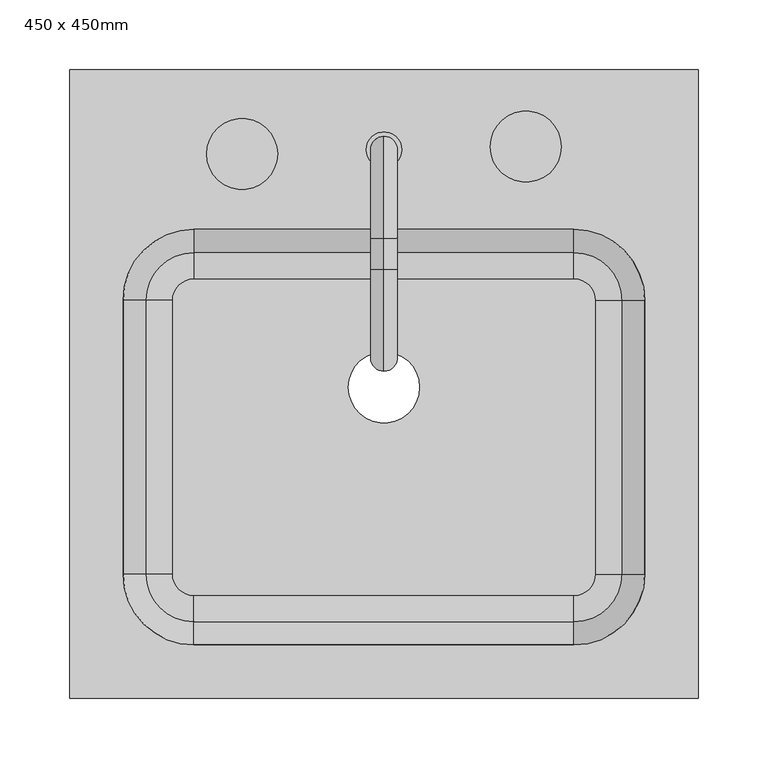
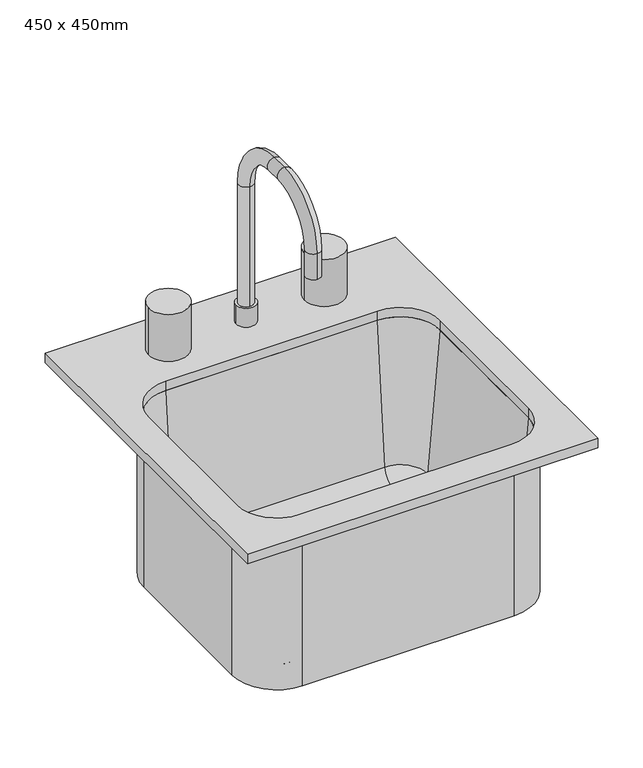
"""IFC4 building model written with IfcOpenShell, lengths in millimetres: flow terminal geometry, シンク キッチン - アイランド : 450 x 450mm."""

from ifc_helpers import new_model, si_unit, point, frame, frame_2d, origin, place, context, project, spatial, polyline, circle_curve, ellipse_curve, trimmed, segment, composite_curve, outline, extrude, source, transform, mapped, element, save
from ifc_brep_helpers import plane_surface, cylinder_surface, revolved_surface, advanced_brep


def flow_terminal_450_x_450mm_65598b4f(model_context):
    return source(origin(), model_context, "Body", "SolidModel", [
        advanced_brep(
        [(208.9392406, 62.2454011, 684.1), (151.7892406, 119.3954011, 684.1), (151.7892406, 119.3954011, 900.0), (208.9392406, 62.2454011, 900.0), (208.9392406, -133.7545989, 684.1), (151.7892406, -190.9045989, 684.1), (-120.4107594, -190.9045989, 684.1), (-177.5607594, -133.7545989, 684.1), (-177.5607594, 62.2454011, 684.1), (-120.4107594, 119.3954011, 684.1), (-9.7107594, 0.0, 684.1), (41.0892406, 0.0, 684.1), (167.0776588, 62.2454011, 693.625), (151.7892406, 77.5338193, 693.625), (-120.4107594, 77.5338193, 693.625), (-135.6991776, 62.2454011, 693.625), (-135.6991776, -133.7545989, 693.625), (-120.4107594, -149.0430171, 693.625), (151.7892406, -149.0430171, 693.625), (167.0776588, -133.7545989, 693.625), (-9.7107594, 0.0, 693.625), (41.0892406, 0.0, 693.625), (186.0551678, 62.2454011, 711.0146831), (151.7892406, 96.5113283, 711.0146831), (202.5892406, 62.2454011, 900.0), (151.7892406, 113.0454011, 900.0), (208.9392406, -133.7545989, 900.0), (186.0551678, -133.7545989, 711.0146831), (202.5892406, -133.7545989, 900.0), (151.7892406, -190.9045989, 900.0), (151.7892406, -168.0205261, 711.0146831), (151.7892406, -184.5545989, 900.0), (-120.4107594, -190.9045989, 900.0), (-120.4107594, -168.0205261, 711.0146831), (-120.4107594, -184.5545989, 900.0), (-177.5607594, -133.7545989, 900.0), (-154.6766866, -133.7545989, 711.0146831), (-171.2107594, -133.7545989, 900.0), (-177.5607594, 62.2454011, 900.0), (-154.6766866, 62.2454011, 711.0146831), (-171.2107594, 62.2454011, 900.0), (-120.4107594, 119.3954011, 900.0), (-120.4107594, 96.5113283, 711.0146831), (-120.4107594, 113.0454011, 900.0)],
        [
            (0, 1, circle_curve(frame((151.7892406, 62.2454011, 684.1), z_axis=(0.0, 0.0, 1.0), x_axis=(0.0, 1.0, 0.0)), 57.15)),
            (1, 2),
            (2, 3, circle_curve(frame((151.7892406, 62.2454011, 900.0), z_axis=(0.0, 0.0, -1.0), x_axis=(0.0, 1.0, 0.0)), 57.15)),
            (3, 0),
            (0, 4),
            (4, 5, circle_curve(frame((151.7892406, -133.7545989, 684.1), z_axis=(0.0, 0.0, -1.0), x_axis=(1.0, 0.0, 0.0)), 57.15)),
            (5, 6),
            (6, 7, circle_curve(frame((-120.4107594, -133.7545989, 684.1), z_axis=(0.0, 0.0, -1.0), x_axis=(0.0, -1.0, 0.0)), 57.15)),
            (7, 8),
            (8, 9, circle_curve(frame((-120.4107594, 62.2454011, 684.1), z_axis=(0.0, 0.0, -1.0), x_axis=(-1.0, 0.0, 0.0)), 57.15)),
            (9, 1),
            (10, 11, circle_curve(frame((15.6892406, 0.0, 684.1), z_axis=(0.0, 0.0, 1.0), x_axis=(1.0, 0.0, 0.0)), 25.4)),
            (11, 10, circle_curve(frame((15.6892406, 0.0, 684.1), z_axis=(0.0, 0.0, 1.0), x_axis=(1.0, 0.0, 0.0)), 25.4)),
            (12, 13, circle_curve(frame((151.7892406, 62.2454011, 693.625), z_axis=(0.0, 0.0, 1.0), x_axis=(0.0, 1.0, 0.0)), 15.2884182)),
            (13, 14),
            (14, 15, circle_curve(frame((-120.4107594, 62.2454011, 693.625), z_axis=(0.0, 0.0, 1.0), x_axis=(-1.0, 0.0, 0.0)), 15.2884182)),
            (15, 16),
            (16, 17, circle_curve(frame((-120.4107594, -133.7545989, 693.625), z_axis=(0.0, 0.0, 1.0), x_axis=(0.0, -1.0, 0.0)), 15.2884182)),
            (17, 18),
            (18, 19, circle_curve(frame((151.7892406, -133.7545989, 693.625), z_axis=(0.0, 0.0, 1.0), x_axis=(1.0, 0.0, 0.0)), 15.2884182)),
            (19, 12),
            (20, 21, circle_curve(frame((15.6892406, 0.0, 693.625), z_axis=(0.0, 0.0, -1.0), x_axis=(1.0, 0.0, 0.0)), 25.4)),
            (21, 20, circle_curve(frame((15.6892406, 0.0, 693.625), z_axis=(0.0, 0.0, -1.0), x_axis=(1.0, 0.0, 0.0)), 25.4)),
            (12, 22, circle_curve(frame((167.0776588, 62.2454011, 712.675), z_axis=(0.0, -1.0, 0.0), x_axis=(1.0, 0.0, 0.0)), 19.05)),
            (22, 23, circle_curve(frame((151.7892406, 62.2454011, 711.0146831), z_axis=(0.0, 0.0, 1.0), x_axis=(0.0, 1.0, 0.0)), 34.2659272)),
            (23, 13, circle_curve(frame((151.7892406, 77.5338193, 712.675), z_axis=(-1.0, 0.0, 0.0), x_axis=(0.0, 1.0, 0.0)), 19.05)),
            (22, 24),
            (24, 25, circle_curve(frame((151.7892406, 62.2454011, 900.0), z_axis=(0.0, 0.0, 1.0), x_axis=(0.0, 1.0, 0.0)), 50.8)),
            (25, 23),
            (2, 25),
            (24, 3),
            (3, 26),
            (26, 4),
            (19, 27, circle_curve(frame((167.0776588, -133.7545989, 712.675), z_axis=(0.0, -1.0, 0.0), x_axis=(1.0, 0.0, 0.0)), 19.05)),
            (27, 22),
            (27, 28),
            (28, 24),
            (28, 26),
            (26, 29, circle_curve(frame((151.7892406, -133.7545989, 900.0), z_axis=(0.0, 0.0, -1.0), x_axis=(1.0, 0.0, 0.0)), 57.15)),
            (29, 5),
            (18, 30, circle_curve(frame((151.7892406, -149.0430171, 712.675), z_axis=(-1.0, 0.0, 0.0), x_axis=(0.0, -1.0, 0.0)), 19.05)),
            (30, 27, circle_curve(frame((151.7892406, -133.7545989, 711.0146831), z_axis=(0.0, 0.0, 1.0), x_axis=(1.0, 0.0, 0.0)), 34.2659272)),
            (30, 31),
            (31, 28, circle_curve(frame((151.7892406, -133.7545989, 900.0), z_axis=(0.0, 0.0, 1.0), x_axis=(1.0, 0.0, 0.0)), 50.8)),
            (31, 29),
            (29, 32),
            (32, 6),
            (17, 33, circle_curve(frame((-120.4107594, -149.0430171, 712.675), z_axis=(-1.0, 0.0, 0.0), x_axis=(0.0, -1.0, 0.0)), 19.05)),
            (33, 30),
            (33, 34),
            (34, 31),
            (34, 32),
            (32, 35, circle_curve(frame((-120.4107594, -133.7545989, 900.0), z_axis=(0.0, 0.0, -1.0), x_axis=(0.0, -1.0, 0.0)), 57.15)),
            (35, 7),
            (16, 36, circle_curve(frame((-135.6991776, -133.7545989, 712.675), z_axis=(0.0, 1.0, 0.0), x_axis=(-1.0, 0.0, 0.0)), 19.05)),
            (36, 33, circle_curve(frame((-120.4107594, -133.7545989, 711.0146831), z_axis=(0.0, 0.0, 1.0), x_axis=(0.0, -1.0, 0.0)), 34.2659272)),
            (36, 37),
            (37, 34, circle_curve(frame((-120.4107594, -133.7545989, 900.0), z_axis=(0.0, 0.0, 1.0), x_axis=(0.0, -1.0, 0.0)), 50.8)),
            (37, 35),
            (35, 38),
            (38, 8),
            (15, 39, circle_curve(frame((-135.6991776, 62.2454011, 712.675), z_axis=(0.0, 1.0, 0.0), x_axis=(-1.0, 0.0, 0.0)), 19.05)),
            (39, 36),
            (39, 40),
            (40, 37),
            (40, 38),
            (38, 41, circle_curve(frame((-120.4107594, 62.2454011, 900.0), z_axis=(0.0, 0.0, -1.0), x_axis=(-1.0, 0.0, 0.0)), 57.15)),
            (41, 9),
            (14, 42, circle_curve(frame((-120.4107594, 77.5338193, 712.675), z_axis=(1.0, 0.0, 0.0), x_axis=(0.0, 1.0, 0.0)), 19.05)),
            (42, 39, circle_curve(frame((-120.4107594, 62.2454011, 711.0146831), z_axis=(0.0, 0.0, 1.0), x_axis=(-1.0, 0.0, 0.0)), 34.2659272)),
            (42, 43),
            (43, 40, circle_curve(frame((-120.4107594, 62.2454011, 900.0), z_axis=(0.0, 0.0, 1.0), x_axis=(-1.0, 0.0, 0.0)), 50.8)),
            (43, 41),
            (41, 2),
            (23, 42),
            (25, 43),
            (20, 10),
            (11, 21),
        ],
        [
            cylinder_surface(frame((151.7892406, 62.2454011, 0.0), z_axis=(0.0, 0.0, -1.0), x_axis=(0.0, 1.0, 0.0)), 57.15),
            plane_surface(frame((151.7892406, 62.2454011, 684.1), z_axis=(0.0, 0.0, -1.0), x_axis=(0.0, 1.0, 0.0))),
            plane_surface(frame((151.7892406, 62.2454011, 693.625), z_axis=(0.0, 0.0, 1.0), x_axis=(0.0, 1.0, 0.0))),
            revolved_surface(trimmed(ellipse_curve(frame((151.7892406, 77.5338193, 712.675), z_axis=(1.0, 0.0, 0.0), x_axis=(0.0, 1.0, 0.0)), 19.05, 19.05), [point((151.7892406, 77.5338193, 693.625))], [point((151.7892406, 96.5113283, 711.0146831))], True, "CARTESIAN"), (151.7892406, 62.2454011, 0.0), (0.0, 0.0, -1.0)),
            revolved_surface(polyline([(151.7892406, 96.5113283, 711.0146831), (151.7892406, 113.0454011, 900.0)]), (151.7892406, 62.2454011, 0.0), (0.0, 0.0, -1.0)),
            plane_surface(frame((151.7892406, 62.2454011, 900.0), z_axis=(0.0, 0.0, 1.0), x_axis=(0.0, 1.0, 0.0))),
            plane_surface(frame((208.9392406, 62.2454011, 900.0), z_axis=(1.0, 0.0, 0.0), x_axis=(0.0, -1.0, 0.0))),
            revolved_surface(polyline([(186.1276588, -133.7545989, 712.675), (186.1276588, 62.2454011, 712.675)]), (167.0776588, 62.2454011, 712.675), (0.0, -1.0, 0.0)),
            plane_surface(frame((186.0551678, 62.2454011, 711.0146831), z_axis=(-0.9961946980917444, 0.0, 0.0871557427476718), x_axis=(0.0, -1.0, 0.0))),
            plane_surface(frame((202.5892406, 62.2454011, 900.0), z_axis=(0.0, 0.0, 1.0), x_axis=(0.0, -1.0, 0.0))),
            cylinder_surface(frame((151.7892406, -133.7545989, 0.0), z_axis=(0.0, 0.0, -1.0), x_axis=(1.0, 0.0, 0.0)), 57.15),
            revolved_surface(trimmed(ellipse_curve(frame((167.0776588, -133.7545989, 712.675), z_axis=(0.0, -1.0, 0.0), x_axis=(1.0, 0.0, 0.0)), 19.05, 19.05), [point((167.0776588, -133.7545989, 693.625))], [point((186.0551678, -133.7545989, 711.0146831))], True, "CARTESIAN"), (151.7892406, -133.7545989, 0.0), (0.0, 0.0, -1.0)),
            revolved_surface(polyline([(186.0551678, -133.7545989, 711.0146831), (202.5892406, -133.7545989, 900.0)]), (151.7892406, -133.7545989, 0.0), (0.0, 0.0, -1.0)),
            plane_surface(frame((151.7892406, -133.7545989, 900.0), z_axis=(0.0, 0.0, 1.0), x_axis=(1.0, 0.0, 0.0))),
            plane_surface(frame((151.7892406, -190.9045989, 900.0), z_axis=(0.0, -1.0, 0.0), x_axis=(-1.0, 0.0, 0.0))),
            revolved_surface(polyline([(-120.41075939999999, -168.0930171, 712.675), (151.7892406, -168.0930171, 712.675)]), (151.7892406, -149.0430171, 712.675), (-1.0, 0.0, 0.0)),
            plane_surface(frame((151.7892406, -168.0205261, 711.0146831), z_axis=(0.0, 0.9961946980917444, 0.0871557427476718), x_axis=(-1.0, 0.0, 0.0))),
            plane_surface(frame((151.7892406, -184.5545989, 900.0), z_axis=(0.0, 0.0, 1.0), x_axis=(-1.0, 0.0, 0.0))),
            cylinder_surface(frame((-120.4107594, -133.7545989, 0.0), z_axis=(0.0, 0.0, -1.0), x_axis=(0.0, -1.0, 0.0)), 57.15),
            revolved_surface(trimmed(ellipse_curve(frame((-120.4107594, -149.0430171, 712.675), z_axis=(-1.0, 0.0, 0.0), x_axis=(0.0, -1.0, 0.0)), 19.05, 19.05), [point((-120.4107594, -149.0430171, 693.625))], [point((-120.4107594, -168.0205261, 711.0146831))], True, "CARTESIAN"), (-120.4107594, -133.7545989, 0.0), (0.0, 0.0, -1.0)),
            revolved_surface(polyline([(-120.4107594, -168.0205261, 711.0146831), (-120.4107594, -184.5545989, 900.0)]), (-120.4107594, -133.7545989, 0.0), (0.0, 0.0, -1.0)),
            plane_surface(frame((-120.4107594, -133.7545989, 900.0), z_axis=(0.0, 0.0, 1.0), x_axis=(0.0, -1.0, 0.0))),
            plane_surface(frame((-177.5607594, -133.7545989, 900.0), z_axis=(-1.0, 0.0, 0.0), x_axis=(0.0, 1.0, 0.0))),
            revolved_surface(polyline([(-154.74917760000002, 62.24540110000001, 712.675), (-154.74917760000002, -133.7545989, 712.675)]), (-135.6991776, -133.7545989, 712.675), (0.0, 1.0, 0.0)),
            plane_surface(frame((-154.6766866, -133.7545989, 711.0146831), z_axis=(0.9961946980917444, 0.0, 0.0871557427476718), x_axis=(0.0, 1.0, 0.0))),
            plane_surface(frame((-171.2107594, -133.7545989, 900.0), z_axis=(0.0, 0.0, 1.0), x_axis=(0.0, 1.0, 0.0))),
            cylinder_surface(frame((-120.4107594, 62.2454011, 0.0), z_axis=(0.0, 0.0, -1.0), x_axis=(-1.0, 0.0, 0.0)), 57.15),
            revolved_surface(trimmed(ellipse_curve(frame((-135.6991776, 62.2454011, 712.675), z_axis=(0.0, 1.0, 0.0), x_axis=(-1.0, 0.0, 0.0)), 19.05, 19.05), [point((-135.6991776, 62.2454011, 693.625))], [point((-154.6766866, 62.2454011, 711.0146831))], True, "CARTESIAN"), (-120.4107594, 62.2454011, 0.0), (0.0, 0.0, -1.0)),
            revolved_surface(polyline([(-154.6766866, 62.2454011, 711.0146831), (-171.2107594, 62.2454011, 900.0)]), (-120.4107594, 62.2454011, 0.0), (0.0, 0.0, -1.0)),
            plane_surface(frame((-120.4107594, 62.2454011, 900.0), z_axis=(0.0, 0.0, 1.0), x_axis=(-1.0, 0.0, 0.0))),
            plane_surface(frame((-120.4107594, 119.3954011, 900.0), z_axis=(0.0, 1.0, 0.0), x_axis=(1.0, 0.0, 0.0))),
            revolved_surface(polyline([(151.78924059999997, 96.5838193, 712.675), (-120.4107594, 96.5838193, 712.675)]), (-120.4107594, 77.5338193, 712.675), (1.0, 0.0, 0.0)),
            plane_surface(frame((-120.4107594, 96.5113283, 711.0146831), z_axis=(0.0, -0.9961946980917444, 0.0871557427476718), x_axis=(1.0, 0.0, 0.0))),
            plane_surface(frame((-120.4107594, 113.0454011, 900.0), z_axis=(0.0, 0.0, 1.0), x_axis=(1.0, 0.0, 0.0))),
            revolved_surface(polyline([(41.0892406, 0.0, 684.1), (41.0892406, 0.0, 693.625)]), (15.6892406, 0.0, 0.0), (0.0, 0.0, -1.0)),
        ],
        [
            (0, [[1, 2, 3, 4]]),
            (1, [[-1, 5, 6, 7, 8, 9, 10, 11], [12, 13]]),
            (2, [[14, 15, 16, 17, 18, 19, 20, 21], [22, 23]]),
            (3, [[-14, 24, 25, 26]]),
            (4, [[-25, 27, 28, 29]]),
            (5, [[-3, 30, -28, 31]]),
            (6, [[-4, 32, 33, -5]]),
            (7, [[-24, -21, 34, 35]]),
            (8, [[-27, -35, 36, 37]]),
            (9, [[-31, -37, 38, -32]]),
            (10, [[-33, 39, 40, -6]]),
            (11, [[-34, -20, 41, 42]]),
            (12, [[-36, -42, 43, 44]]),
            (13, [[-38, -44, 45, -39]]),
            (14, [[-40, 46, 47, -7]]),
            (15, [[-41, -19, 48, 49]]),
            (16, [[-43, -49, 50, 51]]),
            (17, [[-45, -51, 52, -46]]),
            (18, [[-47, 53, 54, -8]]),
            (19, [[-48, -18, 55, 56]]),
            (20, [[-50, -56, 57, 58]]),
            (21, [[-52, -58, 59, -53]]),
            (22, [[-54, 60, 61, -9]]),
            (23, [[-55, -17, 62, 63]]),
            (24, [[-57, -63, 64, 65]]),
            (25, [[-59, -65, 66, -60]]),
            (26, [[-61, 67, 68, -10]]),
            (27, [[-62, -16, 69, 70]]),
            (28, [[-64, -70, 71, 72]]),
            (29, [[-66, -72, 73, -67]]),
            (30, [[-2, -11, -68, 74]]),
            (31, [[-26, 75, -69, -15]]),
            (32, [[-29, 76, -71, -75]]),
            (33, [[-30, -74, -73, -76]]),
            (34, [[-22, 77, -13, 78]]),
            (34, [[-23, -78, -12, -77]]),
        ],
    ),
        advanced_brep(
        [(2.9892406, 170.1954011, 912.7), (28.3892406, 170.1954011, 912.7), (15.6892406, 179.7204011, 1100.025), (15.6892406, 160.6704011, 1100.025), (15.6892406, 160.6704011, 938.1), (15.6892406, 179.7204011, 938.1), (15.6892406, 106.6954011, 1173.05), (15.6892406, 106.6954011, 1154.0), (15.6892406, 84.4704011, 1173.05), (15.6892406, 84.4704011, 1154.0), (15.6892406, 11.4454011, 1100.025), (15.6892406, 30.4954011, 1100.025), (15.6892406, 11.4454011, 1065.1), (15.6892406, 30.4954011, 1065.1), (2.9892406, 170.1954011, 938.1), (28.3892406, 170.1954011, 938.1)],
        [
            (0, 1, circle_curve(frame((15.6892406, 170.1954011, 912.7), z_axis=(0.0, 0.0, -1.0), x_axis=(1.0, 0.0, 0.0)), 12.7)),
            (1, 0, circle_curve(frame((15.6892406, 170.1954011, 912.7), z_axis=(0.0, 0.0, -1.0), x_axis=(1.0, 0.0, 0.0)), 12.7)),
            (2, 3, circle_curve(frame((15.6892406, 170.1954011, 1100.025), z_axis=(0.0, 0.0, -1.0), x_axis=(0.0, -1.0, 0.0)), 9.525)),
            (3, 4),
            (4, 5, circle_curve(frame((15.6892406, 170.1954011, 938.1), z_axis=(0.0, 0.0, 1.0), x_axis=(0.0, -1.0, 0.0)), 9.525)),
            (5, 2),
            (3, 2, circle_curve(frame((15.6892406, 170.1954011, 1100.025), z_axis=(0.0, 0.0, -1.0), x_axis=(0.0, -1.0, 0.0)), 9.525)),
            (5, 4, circle_curve(frame((15.6892406, 170.1954011, 938.1), z_axis=(0.0, 0.0, 1.0), x_axis=(0.0, -1.0, 0.0)), 9.525)),
            (2, 6, circle_curve(frame((15.6892406, 106.6954011, 1100.025), z_axis=(1.0, 0.0, 0.0), x_axis=(0.0, 1.0, 0.0)), 73.025)),
            (6, 7, circle_curve(frame((15.6892406, 106.6954011, 1163.525), z_axis=(0.0, 1.0, 0.0), x_axis=(0.0, 0.0, -1.0)), 9.525)),
            (7, 3, circle_curve(frame((15.6892406, 106.6954011, 1100.025), z_axis=(-1.0, 0.0, 0.0), x_axis=(0.0, 1.0, 0.0)), 53.975)),
            (7, 6, circle_curve(frame((15.6892406, 106.6954011, 1163.525), z_axis=(0.0, 1.0, 0.0), x_axis=(0.0, 0.0, -1.0)), 9.525)),
            (6, 8),
            (8, 9, circle_curve(frame((15.6892406, 84.4704011, 1163.525), z_axis=(0.0, 1.0, 0.0), x_axis=(0.0, 0.0, -1.0)), 9.525)),
            (9, 7),
            (9, 8, circle_curve(frame((15.6892406, 84.4704011, 1163.525), z_axis=(0.0, 1.0, 0.0), x_axis=(0.0, 0.0, -1.0)), 9.525)),
            (8, 10, circle_curve(frame((15.6892406, 84.4704011, 1100.025), z_axis=(1.0, 0.0, 0.0), x_axis=(0.0, 0.0, 1.0)), 73.025)),
            (10, 11, circle_curve(frame((15.6892406, 20.9704011, 1100.025), z_axis=(0.0, 0.0, 1.0), x_axis=(0.0, 1.0, 0.0)), 9.525)),
            (11, 9, circle_curve(frame((15.6892406, 84.4704011, 1100.025), z_axis=(-1.0, 0.0, 0.0), x_axis=(0.0, 0.0, 1.0)), 53.975)),
            (11, 10, circle_curve(frame((15.6892406, 20.9704011, 1100.025), z_axis=(0.0, 0.0, 1.0), x_axis=(0.0, 1.0, 0.0)), 9.525)),
            (12, 13, circle_curve(frame((15.6892406, 20.9704011, 1065.1), z_axis=(0.0, 0.0, -1.0), x_axis=(0.0, 1.0, 0.0)), 9.525)),
            (13, 12, circle_curve(frame((15.6892406, 20.9704011, 1065.1), z_axis=(0.0, 0.0, -1.0), x_axis=(0.0, 1.0, 0.0)), 9.525)),
            (10, 12),
            (13, 11),
            (14, 15, circle_curve(frame((15.6892406, 170.1954011, 938.1), z_axis=(0.0, 0.0, 1.0), x_axis=(1.0, 0.0, 0.0)), 12.7)),
            (15, 14, circle_curve(frame((15.6892406, 170.1954011, 938.1), z_axis=(0.0, 0.0, 1.0), x_axis=(1.0, 0.0, 0.0)), 12.7)),
            (14, 0),
            (1, 15),
        ],
        [
            plane_surface(frame((15.6892406, 160.6704011, 912.7), z_axis=(0.0, 0.0, -1.0), x_axis=(1.0, 0.0, 0.0))),
            cylinder_surface(frame((15.6892406, 170.1954011, 912.7), z_axis=(0.0, 0.0, -1.0), x_axis=(0.0, -1.0, 0.0)), 9.525),
            revolved_surface(trimmed(ellipse_curve(frame((15.6892406, 170.1954011, 1100.025), z_axis=(0.0, 0.0, -1.0), x_axis=(0.0, -1.0, 0.0)), 9.525, 9.525), [point((15.6892406, 179.7204011, 1100.025))], [point((15.6892406, 160.6704011, 1100.025))], True, "CARTESIAN"), (15.6892406, 106.6954011, 1100.025), (1.0, 0.0, 0.0)),
            revolved_surface(trimmed(ellipse_curve(frame((15.6892406, 170.1954011, 1100.025), z_axis=(0.0, 0.0, -1.0), x_axis=(0.0, -1.0, 0.0)), 9.525, 9.525), [point((15.6892406, 160.6704011, 1100.025))], [point((15.6892406, 179.7204011, 1100.025))], True, "CARTESIAN"), (15.6892406, 106.6954011, 1100.025), (1.0, 0.0, 0.0)),
            cylinder_surface(frame((15.6892406, 106.6954011, 1163.525), z_axis=(0.0, 1.0, 0.0), x_axis=(0.0, 0.0, -1.0)), 9.525),
            revolved_surface(trimmed(ellipse_curve(frame((15.6892406, 84.4704011, 1163.525), z_axis=(0.0, 1.0, 0.0), x_axis=(0.0, 0.0, -1.0)), 9.525, 9.525), [point((15.6892406, 84.4704011, 1173.05))], [point((15.6892406, 84.4704011, 1154.0))], True, "CARTESIAN"), (15.6892406, 84.4704011, 1100.025), (1.0, 0.0, 0.0)),
            revolved_surface(trimmed(ellipse_curve(frame((15.6892406, 84.4704011, 1163.525), z_axis=(0.0, 1.0, 0.0), x_axis=(0.0, 0.0, -1.0)), 9.525, 9.525), [point((15.6892406, 84.4704011, 1154.0))], [point((15.6892406, 84.4704011, 1173.05))], True, "CARTESIAN"), (15.6892406, 84.4704011, 1100.025), (1.0, 0.0, 0.0)),
            plane_surface(frame((15.6892406, 11.4454011, 1065.1), z_axis=(0.0, 0.0, -1.0), x_axis=(-1.0, 0.0, 0.0))),
            cylinder_surface(frame((15.6892406, 20.9704011, 1100.025), z_axis=(0.0, 0.0, 1.0), x_axis=(0.0, 1.0, 0.0)), 9.525),
            plane_surface(frame((28.3892406, 170.1954011, 938.1), z_axis=(0.0, 0.0, 1.0), x_axis=(0.0, 1.0, 0.0))),
            cylinder_surface(frame((15.6892406, 170.1954011, 912.7), z_axis=(0.0, 0.0, 1.0), x_axis=(1.0, 0.0, 0.0)), 12.7),
        ],
        [
            (0, [[1, 2]]),
            (1, [[3, 4, 5, 6]]),
            (1, [[7, -6, 8, -4]]),
            (2, [[-3, 9, 10, 11]]),
            (3, [[-7, -11, 12, -9]]),
            (4, [[-10, 13, 14, 15]]),
            (4, [[-12, -15, 16, -13]]),
            (5, [[-14, 17, 18, 19]]),
            (6, [[-16, -19, 20, -17]]),
            (7, [[21, 22]]),
            (8, [[-18, 23, -22, 24]]),
            (8, [[-20, -24, -21, -23]]),
            (9, [[25, 26], [-5, -8]]),
            (10, [[-25, 27, -2, 28]]),
            (10, [[-26, -28, -1, -27]]),
        ],
    ),
        extrude(outline(composite_curve([segment(trimmed(circle_curve(frame_2d((-85.9107594, 167.1166076)), 25.4), [point((-111.3107594, 167.1166076))], [point((-60.5107594, 167.1166076))], False, "CARTESIAN"), True, "CONTINUOUS"), segment(trimmed(circle_curve(frame_2d((-85.9107594, 167.1166076)), 25.4), [point((-60.5107594, 167.1166076))], [point((-111.3107594, 167.1166076))], False, "CARTESIAN"), True, "CONTINUOUS")], self_intersect=False)), frame((0.0, 0.0, 912.7), z_axis=(0.0, 0.0, 1.0), x_axis=(1.0, 0.0, 0.0)), (0.0, 0.0, 1.0), 63.5),
        extrude(outline(composite_curve([segment(trimmed(circle_curve(frame_2d((117.2892406, 172.3133323)), 25.4), [point((91.8892406, 172.3133323))], [point((142.6892406, 172.3133323))], False, "CARTESIAN"), True, "CONTINUOUS"), segment(trimmed(circle_curve(frame_2d((117.2892406, 172.3133323)), 25.4), [point((142.6892406, 172.3133323))], [point((91.8892406, 172.3133323))], False, "CARTESIAN"), True, "CONTINUOUS")], self_intersect=False)), frame((0.0, 0.0, 912.7), z_axis=(0.0, 0.0, 1.0), x_axis=(1.0, 0.0, 0.0)), (0.0, 0.0, 1.0), 63.5),
        extrude(outline(polyline([(240.6892406, 227.3454011), (240.6892406, -222.6545989), (-209.3107594, -222.6545989), (-209.3107594, 227.3454011), (240.6892406, 227.3454011)]), holes=[composite_curve([segment(polyline([(151.7892406, 113.0454011), (-120.4107594, 113.0454011)]), True, "CONTINUOUS"), segment(trimmed(circle_curve(frame_2d((-120.4107594, 62.2454011)), 50.8), [point((-120.4107594, 113.0454011))], [point((-171.2107594, 62.2454011))], True, "CARTESIAN"), True, "CONTINUOUS"), segment(polyline([(-171.2107594, 62.2454011), (-171.2107594, -133.7545989)]), True, "CONTINUOUS"), segment(trimmed(circle_curve(frame_2d((-120.4107594, -133.7545989)), 50.8), [point((-171.2107594, -133.7545989))], [point((-120.4107594, -184.5545989))], True, "CARTESIAN"), True, "CONTINUOUS"), segment(polyline([(-120.4107594, -184.5545989), (151.7892406, -184.5545989)]), True, "CONTINUOUS"), segment(trimmed(circle_curve(frame_2d((151.7892406, -133.7545989)), 50.8), [point((151.7892406, -184.5545989))], [point((202.5892406, -133.7545989))], True, "CARTESIAN"), True, "CONTINUOUS"), segment(polyline([(202.5892406, -133.7545989), (202.5892406, 62.2454011)]), True, "CONTINUOUS"), segment(trimmed(circle_curve(frame_2d((151.7892406, 62.2454011)), 50.8), [point((202.5892406, 62.2454011))], [point((151.7892406, 113.0454011))], True, "CARTESIAN"), True, "CONTINUOUS")], self_intersect=False)]), frame((0.0, 0.0, 900.0), z_axis=(0.0, 0.0, 1.0), x_axis=(1.0, 0.0, 0.0)), (0.0, 0.0, 1.0), 12.7),
    ])


if __name__ == "__main__":
    model = new_model("IFC4")
    model_context = context("Model", 3, world=origin())
    ifc_project = project(units=[si_unit("LENGTHUNIT", "METRE", prefix="MILLI")], contexts=[model_context])
    site = spatial("IfcSite", under=ifc_project)
    building = spatial("IfcBuilding", under=site)
    placement = place(None, origin())
    flow_terminal_450_x_450mm_shape = flow_terminal_450_x_450mm_65598b4f(model_context)
    element("IfcFlowTerminal", 1, ObjectType="シンク キッチン - アイランド : 450 x 450mm", at=placement, inside=building, context=model_context, shape_type="MappedRepresentation", body=[
        mapped(flow_terminal_450_x_450mm_shape, transform((0.0, 0.0, 0.0), x_axis=(1.0, 0.0, 0.0), y_axis=(0.0, 1.0, 0.0), z_axis=(0.0, 0.0, 1.0))),
    ])
    save(model, "model.ifc")
